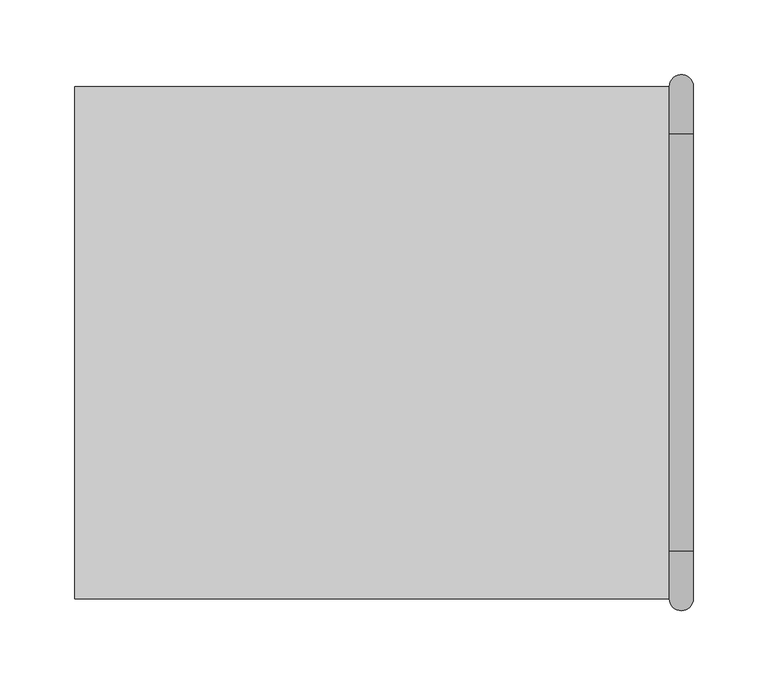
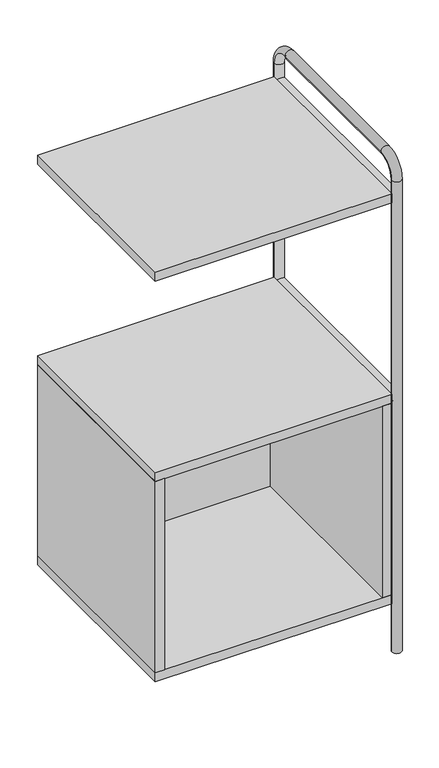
"""IFC4 building model written with IfcOpenShell, lengths in millimetres: furniture geometry, Tubbe Bookcase_Intermediate Unit_2x1 : Tubbe Bookcase_Intermediate Unit_2x1_5x2."""

from ifc_helpers import new_model, si_unit, point, frame, frame_2d, origin, place, context, project, spatial, polyline, circle_curve, ellipse_curve, trimmed, segment, composite_curve, outline, extrude, source, transform, mapped, element, save
from ifc_brep_helpers import plane_surface, cylinder_surface, revolved_surface, advanced_brep


def furniture_83918df8(model_context):
    return source(origin(), model_context, "Body", "SolidModel", [
        extrude(outline(polyline([(183.0, 155.5), (-183.0, 155.5), (-183.0, 171.5), (183.0, 171.5), (183.0, 155.5)])), frame((0.0, 0.0, 102.0), z_axis=(0.0, 0.0, 1.0), x_axis=(1.0, 0.0, 0.0)), (0.0, 0.0, 1.0), 340.0),
        extrude(outline(polyline([(199.0, 171.5), (199.0, -171.5), (183.0, -171.5), (183.0, 171.5), (199.0, 171.5)])), frame((0.0, 0.0, 102.0), z_axis=(0.0, 0.0, 1.0), x_axis=(1.0, 0.0, 0.0)), (0.0, 0.0, 1.0), 340.0),
        extrude(outline(polyline([(-183.0, 171.5), (-183.0, -171.5), (-199.0, -171.5), (-199.0, 171.5), (-183.0, 171.5)])), frame((0.0, 0.0, 102.0), z_axis=(0.0, 0.0, 1.0), x_axis=(1.0, 0.0, 0.0)), (0.0, 0.0, 1.0), 340.0),
        extrude(outline(polyline([(199.0, 171.5), (199.0, -171.5), (-199.0, -171.5), (-199.0, 171.5), (199.0, 171.5)])), frame((0.0, 0.0, 798.0), z_axis=(0.0, 0.0, 1.0), x_axis=(1.0, 0.0, 0.0)), (0.0, 0.0, 1.0), 16.0),
        extrude(outline(polyline([(199.0, 171.5), (199.0, -171.5), (-199.0, -171.5), (-199.0, 171.5), (199.0, 171.5)])), frame((0.0, 0.0, 442.0), z_axis=(0.0, 0.0, 1.0), x_axis=(1.0, 0.0, 0.0)), (0.0, 0.0, 1.0), 16.0),
        extrude(outline(polyline([(199.0, 171.5), (199.0, -171.5), (-199.0, -171.5), (-199.0, 171.5), (199.0, 171.5)])), frame((0.0, 0.0, 86.0), z_axis=(0.0, 0.0, 1.0), x_axis=(1.0, 0.0, 0.0)), (0.0, 0.0, 1.0), 16.0),
        extrude(outline(composite_curve([segment(trimmed(circle_curve(frame_2d((806.0, 207.0)), 8.0), [point((806.0, 199.0))], [point((806.0, 215.0))], False, "CARTESIAN"), True, "CONTINUOUS"), segment(trimmed(circle_curve(frame_2d((806.0, 207.0)), 8.0), [point((806.0, 215.0))], [point((806.0, 199.0))], False, "CARTESIAN"), True, "CONTINUOUS")], self_intersect=False)), frame((0.0, -171.5, 0.0), z_axis=(0.0, 1.0, 0.0), x_axis=(0.0, 0.0, 1.0)), (0.0, 0.0, 1.0), 343.0),
        extrude(outline(composite_curve([segment(trimmed(circle_curve(frame_2d((450.0, 207.0)), 8.0), [point((450.0, 199.0))], [point((450.0, 215.0))], False, "CARTESIAN"), True, "CONTINUOUS"), segment(trimmed(circle_curve(frame_2d((450.0, 207.0)), 8.0), [point((450.0, 215.0))], [point((450.0, 199.0))], False, "CARTESIAN"), True, "CONTINUOUS")], self_intersect=False)), frame((0.0, -171.5, 0.0), z_axis=(0.0, 1.0, 0.0), x_axis=(0.0, 0.0, 1.0)), (0.0, 0.0, 1.0), 343.0),
        extrude(outline(composite_curve([segment(trimmed(circle_curve(frame_2d((94.0, 207.0)), 8.0), [point((94.0, 199.0))], [point((94.0, 215.0))], False, "CARTESIAN"), True, "CONTINUOUS"), segment(trimmed(circle_curve(frame_2d((94.0, 207.0)), 8.0), [point((94.0, 215.0))], [point((94.0, 199.0))], False, "CARTESIAN"), True, "CONTINUOUS")], self_intersect=False)), frame((0.0, -171.5, 0.0), z_axis=(0.0, 1.0, 0.0), x_axis=(0.0, 0.0, 1.0)), (0.0, 0.0, 1.0), 343.0),
        advanced_brep(
        [(199.0, 171.5, 0.0), (215.0, 171.5, 0.0), (199.0, 171.5, 838.0), (215.0, 171.5, 838.0), (215.0, 139.5, 870.0), (199.0, 139.5, 870.0), (199.0, -139.5, 870.0), (215.0, -139.5, 870.0), (215.0, -171.5, 838.0), (199.0, -171.5, 838.0), (199.0, -171.5, 0.0), (215.0, -171.5, 0.0)],
        [
            (0, 1, circle_curve(frame((207.0, 171.5, 0.0), z_axis=(0.0, 0.0, -1.0), x_axis=(1.0, 0.0, 0.0)), 8.0)),
            (1, 0, circle_curve(frame((207.0, 171.5, 0.0), z_axis=(0.0, 0.0, -1.0), x_axis=(1.0, 0.0, 0.0)), 8.0)),
            (0, 2),
            (2, 3, circle_curve(frame((207.0, 171.5, 838.0), z_axis=(0.0, 0.0, -1.0), x_axis=(1.0, 0.0, 0.0)), 8.0)),
            (3, 1),
            (3, 2, circle_curve(frame((207.0, 171.5, 838.0), z_axis=(0.0, 0.0, -1.0), x_axis=(1.0, 0.0, 0.0)), 8.0)),
            (4, 5, circle_curve(frame((207.0, 139.5, 870.0), z_axis=(0.0, -1.0, 0.0), x_axis=(1.0, 0.0, 0.0)), 8.0)),
            (5, 6),
            (6, 7, circle_curve(frame((207.0, -139.5, 870.0), z_axis=(0.0, 1.0, 0.0), x_axis=(1.0, 0.0, 0.0)), 8.0)),
            (7, 4),
            (5, 4, circle_curve(frame((207.0, 139.5, 870.0), z_axis=(0.0, -1.0, 0.0), x_axis=(1.0, 0.0, 0.0)), 8.0)),
            (7, 6, circle_curve(frame((207.0, -139.5, 870.0), z_axis=(0.0, 1.0, 0.0), x_axis=(1.0, 0.0, 0.0)), 8.0)),
            (8, 7, circle_curve(frame((215.0, -139.5, 838.0), z_axis=(-1.0, 0.0, 0.0), x_axis=(0.0, 0.0, 1.0)), 32.0)),
            (6, 9, circle_curve(frame((199.0, -139.5, 838.0), z_axis=(1.0, 0.0, 0.0), x_axis=(0.0, 0.0, 1.0)), 32.0)),
            (9, 8, circle_curve(frame((207.0, -171.5, 838.0), z_axis=(0.0, 0.0, 1.0), x_axis=(1.0, 0.0, 0.0)), 8.0)),
            (8, 9, circle_curve(frame((207.0, -171.5, 838.0), z_axis=(0.0, 0.0, 1.0), x_axis=(1.0, 0.0, 0.0)), 8.0)),
            (10, 11, circle_curve(frame((207.0, -171.5, 0.0), z_axis=(0.0, 0.0, -1.0), x_axis=(1.0, 0.0, 0.0)), 8.0)),
            (11, 10, circle_curve(frame((207.0, -171.5, 0.0), z_axis=(0.0, 0.0, -1.0), x_axis=(1.0, 0.0, 0.0)), 8.0)),
            (9, 10),
            (11, 8),
            (4, 3, circle_curve(frame((215.0, 139.5, 838.0), z_axis=(-1.0, 0.0, 0.0), x_axis=(0.0, 1.0, 0.0)), 32.0)),
            (2, 5, circle_curve(frame((199.0, 139.5, 838.0), z_axis=(1.0, 0.0, 0.0), x_axis=(0.0, 1.0, 0.0)), 32.0)),
        ],
        [
            plane_surface(frame((207.0, 171.5, 0.0), z_axis=(0.0, 0.0, -1.0), x_axis=(1.0, 0.0, 0.0))),
            cylinder_surface(frame((207.0, 171.5, 0.0), z_axis=(0.0, 0.0, -1.0), x_axis=(1.0, 0.0, 0.0)), 8.0),
            cylinder_surface(frame((207.0, 139.5, 870.0), z_axis=(0.0, 1.0, 0.0), x_axis=(1.0, 0.0, 0.0)), 8.0),
            revolved_surface(trimmed(ellipse_curve(frame((207.0, -139.5, 870.0), z_axis=(0.0, 1.0, 0.0), x_axis=(1.0, 0.0, 0.0)), 8.0, 8.0), [point((199.0, -139.5, 870.0))], [point((215.0, -139.5, 870.0))], True, "CARTESIAN"), (207.0, -139.5, 838.0), (1.0, 0.0, 0.0)),
            revolved_surface(trimmed(ellipse_curve(frame((207.0, -139.5, 870.0), z_axis=(0.0, 1.0, 0.0), x_axis=(1.0, 0.0, 0.0)), 8.0, 8.0), [point((215.0, -139.5, 870.0))], [point((199.0, -139.5, 870.0))], True, "CARTESIAN"), (207.0, -139.5, 838.0), (1.0, 0.0, 0.0)),
            plane_surface(frame((207.0, -171.5, 0.0), z_axis=(0.0, 0.0, -1.0), x_axis=(1.0, 0.0, 0.0))),
            cylinder_surface(frame((207.0, -171.5, 838.0), z_axis=(0.0, 0.0, 1.0), x_axis=(1.0, 0.0, 0.0)), 8.0),
            revolved_surface(trimmed(ellipse_curve(frame((207.0, 171.5, 838.0), z_axis=(0.0, 0.0, -1.0), x_axis=(1.0, 0.0, 0.0)), 8.0, 8.0), [point((199.0, 171.5, 838.0))], [point((215.0, 171.5, 838.0))], True, "CARTESIAN"), (207.0, 139.5, 838.0), (1.0, 0.0, 0.0)),
            revolved_surface(trimmed(ellipse_curve(frame((207.0, 171.5, 838.0), z_axis=(0.0, 0.0, -1.0), x_axis=(1.0, 0.0, 0.0)), 8.0, 8.0), [point((215.0, 171.5, 838.0))], [point((199.0, 171.5, 838.0))], True, "CARTESIAN"), (207.0, 139.5, 838.0), (1.0, 0.0, 0.0)),
        ],
        [
            (0, [[1, 2]]),
            (1, [[-1, 3, 4, 5]]),
            (1, [[-2, -5, 6, -3]]),
            (2, [[7, 8, 9, 10]]),
            (2, [[11, -10, 12, -8]]),
            (3, [[13, -9, 14, 15]]),
            (4, [[-14, -12, -13, 16]]),
            (5, [[17, 18]]),
            (6, [[-15, 19, -18, 20]]),
            (6, [[-16, -20, -17, -19]]),
            (7, [[21, -4, 22, -7]]),
            (8, [[-22, -6, -21, -11]]),
        ],
    ),
    ])


if __name__ == "__main__":
    model = new_model("IFC4")
    model_context = context("Model", 3, world=origin())
    ifc_project = project(units=[si_unit("LENGTHUNIT", "METRE", prefix="MILLI")], contexts=[model_context])
    site = spatial("IfcSite", under=ifc_project)
    building = spatial("IfcBuilding", under=site)
    placement = place(None, origin())
    furniture_shape = furniture_83918df8(model_context)
    element("IfcFurniture", 1, ObjectType="Tubbe Bookcase_Intermediate Unit_2x1 : Tubbe Bookcase_Intermediate Unit_2x1_5x2", at=placement, inside=building, context=model_context, shape_type="MappedRepresentation", body=[
        mapped(furniture_shape, transform((0.0, 0.0, 0.0), x_axis=(1.0, 0.0, 0.0), y_axis=(0.0, 1.0, 0.0), z_axis=(0.0, 0.0, 1.0))),
    ])
    save(model, "model.ifc")
